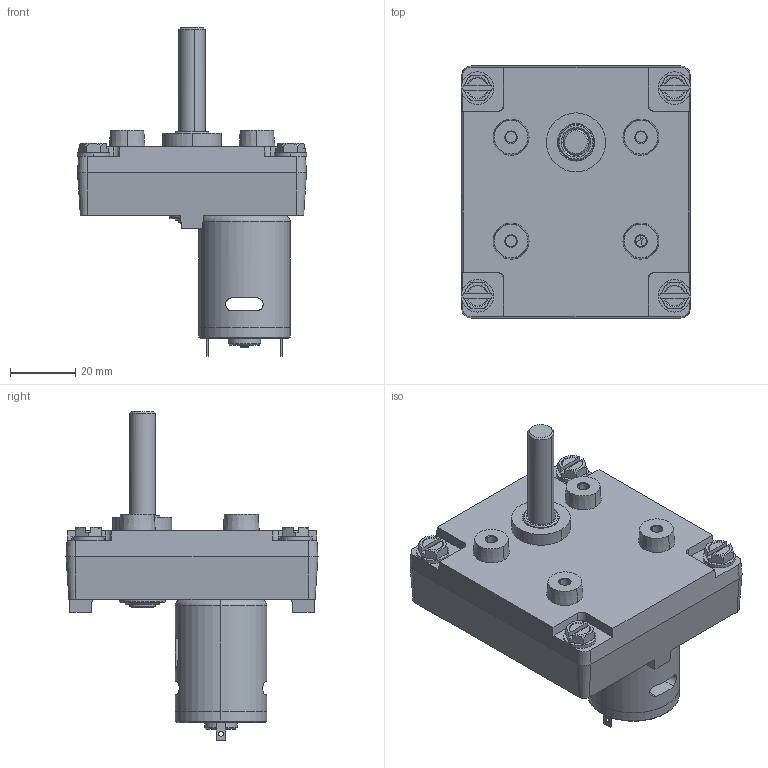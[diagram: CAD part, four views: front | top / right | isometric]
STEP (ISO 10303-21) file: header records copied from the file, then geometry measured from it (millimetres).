
FILE_DESCRIPTION (( 'STEP AP203' ), '1' );
FILE_NAME ('CJ-014-MRP 710-224.STEP', '2018-08-13T12:43:42', ( '' ), ( '' ), 'SwSTEP 2.0', 'SolidWorks 2018', '' );
FILE_SCHEMA (( 'CONFIG_CONTROL_DESIGN' ));
Length unit declared in the file: millimetre
Products named in the file (2): CJ-014-MRP 710-224
Bounding box: 70.1 x 77 x 100.45 mm (x, y, z)
Surface area: 30839.3 mm2 (no closed solid volume)
Topology: 0 solids, 21 shells, 394 faces, 1458 edges, 1059 vertices
Faces by surface type: plane 166, cylinder 115, cone 103, torus 10
Entity records: 16772 total; most frequent: CARTESIAN_POINT 4096, DIRECTION 2647, ORIENTED_EDGE 2400, EDGE_CURVE 1458, VERTEX_POINT 1059, AXIS2_PLACEMENT_3D 958, LINE 731, VECTOR 731
